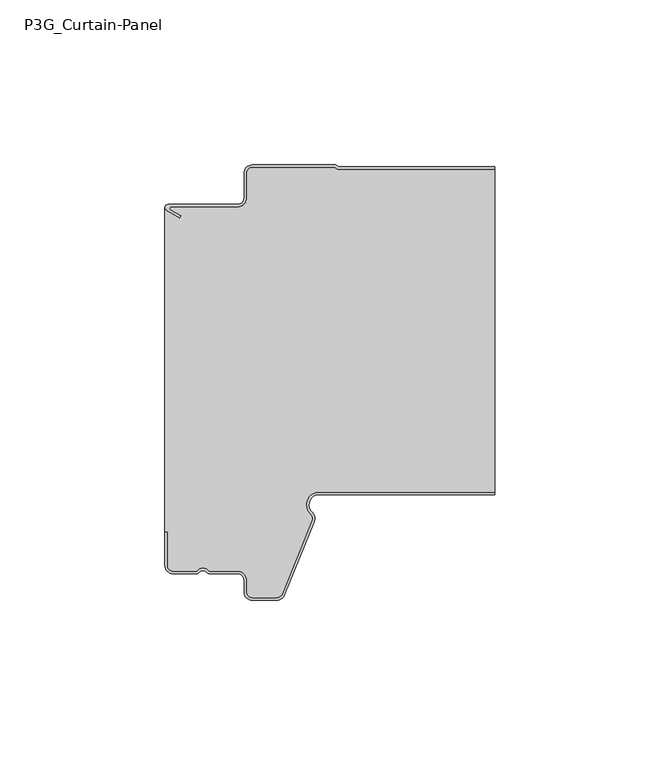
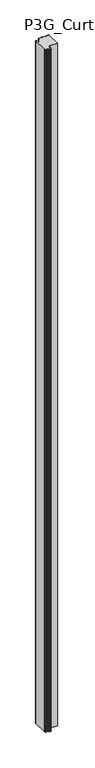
"""IFC4 building model written with IfcOpenShell, lengths in millimetres: plate geometry, P3G_Curtain-Panel : ACH_P3G_3-Rib-Roof-Panel_100M."""

from ifc_helpers import new_model, si_unit, point, frame, frame_2d, origin, origin_with_axes, place, context, project, spatial, polyline, circle_curve, trimmed, segment, composite_curve, outline, extrude, source, transform, mapped, element, save


def p3g_curtain_panel_651e70bc(model_context):
    return source(origin(), model_context, "Body", "SweptSolid", [
        extrude(outline(composite_curve([segment(trimmed(circle_curve(frame_2d((-13.0, -48.996875)), 1.0), [point((-13.8660254, -49.496875))], [point((-13.0, -49.996875))], True, "CARTESIAN"), True, "CONTINUOUS"), segment(polyline([(-13.0, -49.996875), (-111.18, -49.996875), (-111.18, -49.196875), (-121.5, -49.196875)]), True, "CONTINUOUS"), segment(trimmed(circle_curve(frame_2d((-121.5, -47.496875)), 1.7), [point((-121.5, -49.196875))], [point((-123.2, -47.496875))], False, "CARTESIAN"), True, "CONTINUOUS"), segment(polyline([(-123.2, -47.496875), (-123.2, -40.3942416)]), True, "CONTINUOUS"), segment(trimmed(circle_curve(frame_2d((-124.5, -38.496875)), 2.3), [point((-123.2, -40.3942416))], [point((-123.2, -36.5995084))], True, "CARTESIAN"), True, "CONTINUOUS"), segment(polyline([(-123.2, -36.5995084), (-123.2, -27.996875)]), True, "CONTINUOUS"), segment(trimmed(circle_curve(frame_2d((-126.0, -27.996875)), 2.8), [point((-123.2, -27.996875))], [point((-126.0, -25.196875))], True, "CARTESIAN"), True, "CONTINUOUS"), segment(polyline([(-126.0, -25.196875), (-129.5, -25.196875)]), True, "CONTINUOUS"), segment(trimmed(circle_curve(frame_2d((-129.5, -23.496875)), 1.7), [point((-129.5, -25.196875))], [point((-131.2, -23.496875))], False, "CARTESIAN"), True, "CONTINUOUS"), segment(polyline([(-131.2, -23.496875), (-131.2, -16.0601463)]), True, "CONTINUOUS"), segment(trimmed(circle_curve(frame_2d((-129.5, -16.0601463)), 1.7), [point((-131.2, -16.0601463))], [point((-130.1368312, -14.4839337))], False, "CARTESIAN"), True, "CONTINUOUS"), segment(polyline([(-130.1368312, -14.4839337), (-107.838756, -5.4749266)]), True, "CONTINUOUS"), segment(trimmed(circle_curve(frame_2d((-107.2019248, -7.0511391)), 1.7), [point((-107.838756, -5.4749266))], [point((-105.9566976, -5.8938106))], False, "CARTESIAN"), True, "CONTINUOUS"), segment(trimmed(circle_curve(frame_2d((-103.1, -3.2387629)), 3.9), [point((-105.9566976, -5.8938106))], [point((-99.2, -3.2387629))], True, "CARTESIAN"), True, "CONTINUOUS"), segment(polyline([(-99.2, -3.2387629), (-99.2, 50.0), (-1.4, 50.0), (-1.4, 2.5661408), (-0.8, 1.5686408), (-0.8, -23.496875)]), True, "CONTINUOUS"), segment(trimmed(circle_curve(frame_2d((-2.5, -23.496875)), 1.7), [point((-0.8, -23.496875))], [point((-2.5, -25.196875))], False, "CARTESIAN"), True, "CONTINUOUS"), segment(polyline([(-2.5, -25.196875), (-10.0, -25.196875)]), True, "CONTINUOUS"), segment(trimmed(circle_curve(frame_2d((-10.0, -27.996875)), 2.8), [point((-10.0, -25.196875))], [point((-12.8, -27.996875))], True, "CARTESIAN"), True, "CONTINUOUS"), segment(polyline([(-12.8, -27.996875), (-12.8, -47.8772598)]), True, "CONTINUOUS"), segment(trimmed(circle_curve(frame_2d((-13.3, -47.8772598)), 0.5), [point((-12.8, -47.8772598))], [point((-13.7330127, -48.1272598))], False, "CARTESIAN"), True, "CONTINUOUS"), segment(polyline([(-13.7330127, -48.1272598), (-15.4826062, -45.096875), (-16.1754265, -45.496875), (-13.8660254, -49.496875)]), True, "CONTINUOUS")], self_intersect=False)), frame((0.0, 0.0, 5000.0), z_axis=(0.0, 0.0, -1.0), x_axis=(0.0, 1.0, 0.0)), (0.0, 0.0, 1.0), 5000.0),
        extrude(outline(composite_curve([segment(trimmed(circle_curve(frame_2d((-28.0, -10.0)), 2.0), [point((-28.0, -12.0))], [point((-26.0, -10.0))], True, "CARTESIAN"), True, "CONTINUOUS"), segment(polyline([(-26.0, -10.0), (-26.0, -2.5)]), True, "CONTINUOUS"), segment(trimmed(circle_curve(frame_2d((-23.5, -2.5)), 2.5), [point((-26.0, -2.5))], [point((-23.5, 0.0))], False, "CARTESIAN"), True, "CONTINUOUS"), segment(polyline([(-23.5, 0.0), (1.7875789, 0.0), (2.7850789, -0.6), (50.0, -0.6), (50.0, -1.4), (2.5630158, -1.4), (1.5655158, -0.8), (-23.5, -0.8)]), True, "CONTINUOUS"), segment(trimmed(circle_curve(frame_2d((-23.5, -2.5)), 1.7), [point((-23.5, -0.8))], [point((-25.2, -2.5))], True, "CARTESIAN"), True, "CONTINUOUS"), segment(polyline([(-25.2, -2.5), (-25.2, -10.0)]), True, "CONTINUOUS"), segment(trimmed(circle_curve(frame_2d((-28.0, -10.0)), 2.8), [point((-25.2, -10.0))], [point((-28.0, -12.8))], False, "CARTESIAN"), True, "CONTINUOUS"), segment(polyline([(-28.0, -12.8), (-47.8803848, -12.8)]), True, "CONTINUOUS"), segment(trimmed(circle_curve(frame_2d((-47.8803848, -13.3)), 0.5), [point((-47.8803848, -12.8))], [point((-48.1303848, -13.7330127))], True, "CARTESIAN"), True, "CONTINUOUS"), segment(polyline([(-48.1303848, -13.7330127), (-45.1, -15.4826062), (-45.5, -16.1754265), (-49.5, -13.8660254)]), True, "CONTINUOUS"), segment(trimmed(circle_curve(frame_2d((-49.0, -13.0)), 1.0), [point((-49.5, -13.8660254))], [point((-49.0, -12.0))], False, "CARTESIAN"), True, "CONTINUOUS"), segment(polyline([(-49.0, -12.0), (-28.0, -12.0)]), True, "CONTINUOUS")], self_intersect=False)), origin_with_axes(), (0.0, 0.0, 1.0), 5000.0),
        extrude(outline(composite_curve([segment(polyline([(-50.0, -121.5), (-50.0, -111.18), (-49.2, -111.18), (-49.2, -121.5)]), True, "CONTINUOUS"), segment(trimmed(circle_curve(frame_2d((-47.5, -121.5)), 1.7), [point((-49.2, -121.5))], [point((-47.5, -123.2))], True, "CARTESIAN"), True, "CONTINUOUS"), segment(polyline([(-47.5, -123.2), (-40.3973666, -123.2)]), True, "CONTINUOUS"), segment(trimmed(circle_curve(frame_2d((-38.5, -124.5)), 2.3), [point((-40.3973666, -123.2))], [point((-36.6026334, -123.2))], False, "CARTESIAN"), True, "CONTINUOUS"), segment(polyline([(-36.6026334, -123.2), (-28.0, -123.2)]), True, "CONTINUOUS"), segment(trimmed(circle_curve(frame_2d((-28.0, -126.0)), 2.8), [point((-28.0, -123.2))], [point((-25.2, -126.0))], False, "CARTESIAN"), True, "CONTINUOUS"), segment(polyline([(-25.2, -126.0), (-25.2, -129.5)]), True, "CONTINUOUS"), segment(trimmed(circle_curve(frame_2d((-23.5, -129.5)), 1.7), [point((-25.2, -129.5))], [point((-23.5, -131.2))], True, "CARTESIAN"), True, "CONTINUOUS"), segment(polyline([(-23.5, -131.2), (-16.0632713, -131.2)]), True, "CONTINUOUS"), segment(trimmed(circle_curve(frame_2d((-16.0632713, -129.5)), 1.7), [point((-16.0632713, -131.2))], [point((-14.4870587, -130.1368312))], True, "CARTESIAN"), True, "CONTINUOUS"), segment(polyline([(-14.4870587, -130.1368312), (-5.4780516, -107.838756)]), True, "CONTINUOUS"), segment(trimmed(circle_curve(frame_2d((-7.0542641, -107.2019248)), 1.7), [point((-5.4780516, -107.838756))], [point((-5.8969356, -105.9566976))], True, "CARTESIAN"), True, "CONTINUOUS"), segment(trimmed(circle_curve(frame_2d((-3.2418879, -103.1)), 3.9), [point((-5.8969356, -105.9566976))], [point((-3.2418879, -99.2))], False, "CARTESIAN"), True, "CONTINUOUS"), segment(polyline([(-3.2418879, -99.2), (50.0, -99.2), (50.0, -100.0), (-3.2418879, -100.0)]), True, "CONTINUOUS"), segment(trimmed(circle_curve(frame_2d((-3.2418879, -103.1)), 3.1), [point((-3.2418879, -100.0))], [point((-5.3523104, -105.3707084))], True, "CARTESIAN"), True, "CONTINUOUS"), segment(trimmed(circle_curve(frame_2d((-7.0542641, -107.2019248)), 2.5), [point((-5.3523104, -105.3707084))], [point((-4.7363045, -108.1384413))], False, "CARTESIAN"), True, "CONTINUOUS"), segment(polyline([(-4.7363045, -108.1384413), (-13.7453117, -130.4365165)]), True, "CONTINUOUS"), segment(trimmed(circle_curve(frame_2d((-16.0632713, -129.5)), 2.5), [point((-13.7453117, -130.4365165))], [point((-16.0632713, -132.0))], False, "CARTESIAN"), True, "CONTINUOUS"), segment(polyline([(-16.0632713, -132.0), (-23.5, -132.0)]), True, "CONTINUOUS"), segment(trimmed(circle_curve(frame_2d((-23.5, -129.5)), 2.5), [point((-23.5, -132.0))], [point((-26.0, -129.5))], False, "CARTESIAN"), True, "CONTINUOUS"), segment(polyline([(-26.0, -129.5), (-26.0, -126.0)]), True, "CONTINUOUS"), segment(trimmed(circle_curve(frame_2d((-28.0, -126.0)), 2.0), [point((-26.0, -126.0))], [point((-28.0, -124.0))], True, "CARTESIAN"), True, "CONTINUOUS"), segment(polyline([(-28.0, -124.0), (-36.263932, -124.0)]), True, "CONTINUOUS"), segment(trimmed(circle_curve(frame_2d((-36.263932, -122.5)), 1.5), [point((-36.263932, -124.0))], [point((-37.381966, -123.5))], False, "CARTESIAN"), True, "CONTINUOUS"), segment(trimmed(circle_curve(frame_2d((-38.5, -124.5)), 1.5), [point((-37.381966, -123.5))], [point((-39.618034, -123.5))], True, "CARTESIAN"), True, "CONTINUOUS"), segment(trimmed(circle_curve(frame_2d((-40.736068, -122.5)), 1.5), [point((-39.618034, -123.5))], [point((-40.736068, -124.0))], False, "CARTESIAN"), True, "CONTINUOUS"), segment(polyline([(-40.736068, -124.0), (-47.5, -124.0)]), True, "CONTINUOUS"), segment(trimmed(circle_curve(frame_2d((-47.5, -121.5)), 2.5), [point((-47.5, -124.0))], [point((-50.0, -121.5))], False, "CARTESIAN"), True, "CONTINUOUS")], self_intersect=False)), origin_with_axes(), (0.0, 0.0, 1.0), 5000.0),
    ])


if __name__ == "__main__":
    model = new_model("IFC4")
    model_context = context("Model", 3, world=origin())
    ifc_project = project(units=[si_unit("LENGTHUNIT", "METRE", prefix="MILLI")], contexts=[model_context])
    site = spatial("IfcSite", under=ifc_project)
    building = spatial("IfcBuilding", under=site)
    placement = place(None, origin())
    p3g_curtain_panel_shape = p3g_curtain_panel_651e70bc(model_context)
    element("IfcPlate", 1, ObjectType="P3G_Curtain-Panel : ACH_P3G_3-Rib-Roof-Panel_100M", at=placement, inside=building, context=model_context, shape_type="MappedRepresentation", body=[
        mapped(p3g_curtain_panel_shape, transform((0.0, 0.0, 0.0), x_axis=(1.0, 0.0, 0.0), y_axis=(0.0, 1.0, 0.0), z_axis=(0.0, 0.0, 1.0))),
    ])
    save(model, "model.ifc")
